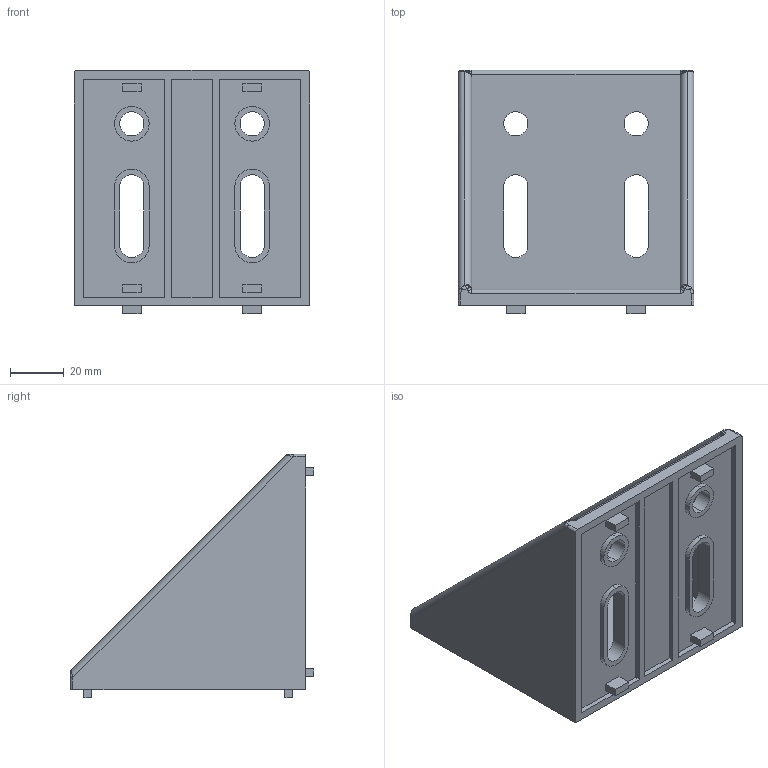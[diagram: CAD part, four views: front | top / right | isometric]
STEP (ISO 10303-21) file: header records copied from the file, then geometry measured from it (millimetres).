
FILE_DESCRIPTION (( 'STEP AP203' ), '1' );
FILE_NAME ('DCB9088-8.STEP', '2019-12-04T08:44:21', ( '' ), ( '' ), 'SwSTEP 2.0', 'SolidWorks 2017', '' );
FILE_SCHEMA (( 'CONFIG_CONTROL_DESIGN' ));
Length unit declared in the file: millimetre
Products named in the file (1): DCB9088-8
Bounding box: 88 x 91 x 91 mm (x, y, z)
Volume: 95510.1 mm3; surface area: 49884.6 mm2
Topology: 1 solids, 1 shells, 191 faces, 469 edges, 292 vertices
Faces by surface type: plane 108, cylinder 57, bspline 20, torus 4, sphere 2
Entity records: 5908 total; most frequent: CARTESIAN_POINT 1431, ORIENTED_EDGE 918, DIRECTION 881, EDGE_CURVE 459, VECTOR 301, LINE 301, VERTEX_POINT 292, AXIS2_PLACEMENT_3D 290
